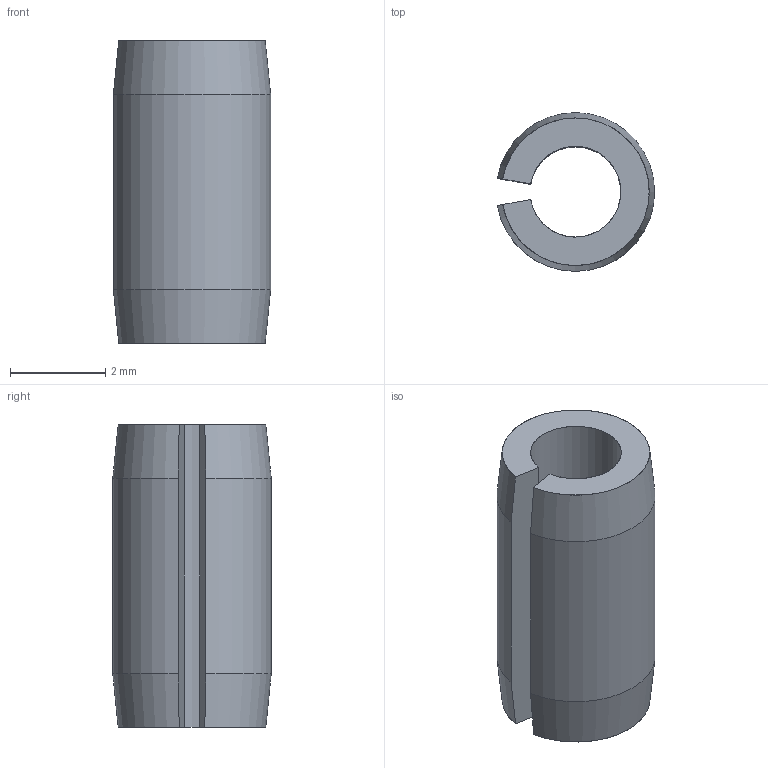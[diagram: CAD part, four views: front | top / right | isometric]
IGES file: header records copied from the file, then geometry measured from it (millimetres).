
Start section: SolidWorks IGES file using analytic representation for surfaces
Global section: file name: C:\Users\Bud\Documents\GitHub\telemetry\Hardware\Masthead hardware\IGES\roll pin - McM92373A173.IGS; native system: SolidWorks 2011; preprocessor: SolidWorks 2011; author: Bud; date: 131225.191651; units: inch
Bounding box: 3.3 x 3.33 x 6.35 mm (x, y, z)
Surface area: 115.6 mm2 (no closed solid volume)
Topology: 0 solids, 0 shells, 9 faces, 133 edges, 133 vertices
Faces by surface type: revolution 5, bspline 4
